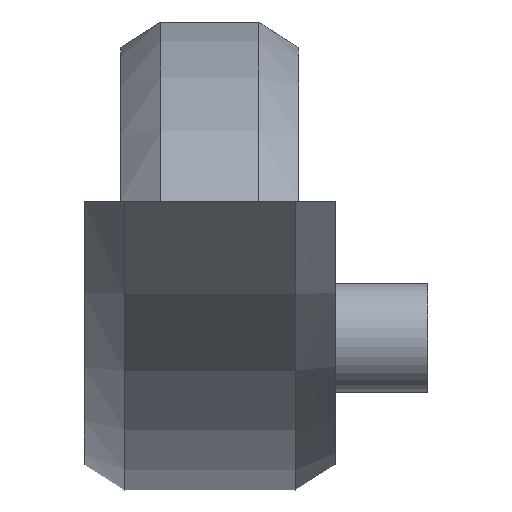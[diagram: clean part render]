
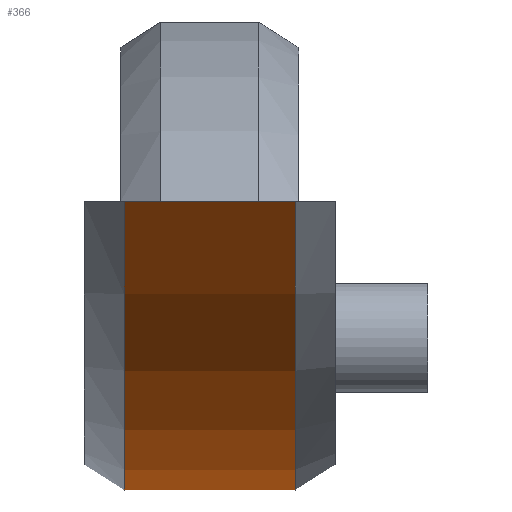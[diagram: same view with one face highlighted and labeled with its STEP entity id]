
A CAD part, front view. The second image highlights one B-rep face of the part: STEP entity #366.
In plain terms, the highlighted cylindrical face has radius 50 mm (diameter 100 mm), a partial arc.
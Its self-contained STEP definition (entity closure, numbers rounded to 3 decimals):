
#59=FACE_OUTER_BOUND('',#81,.T.);
#81=EDGE_LOOP('',(#290,#291,#292,#293));
#100=LINE('',#626,#125);
#106=LINE('',#646,#131);
#125=VECTOR('',#507,10.);
#131=VECTOR('',#513,10.);
#150=CIRCLE('',#455,50.);
#154=CIRCLE('',#462,50.);
#170=VERTEX_POINT('',#621);
#171=VERTEX_POINT('',#625);
#178=VERTEX_POINT('',#641);
#179=VERTEX_POINT('',#645);
#205=EDGE_CURVE('',#171,#170,#100,.T.);
#213=EDGE_CURVE('',#179,#178,#106,.T.);
#219=EDGE_CURVE('',#171,#178,#150,.T.);
#223=EDGE_CURVE('',#170,#179,#154,.T.);
#290=ORIENTED_EDGE('',*,*,#213,.T.);
#291=ORIENTED_EDGE('',*,*,#219,.F.);
#292=ORIENTED_EDGE('',*,*,#205,.T.);
#293=ORIENTED_EDGE('',*,*,#223,.T.);
#353=CYLINDRICAL_SURFACE('',#463,50.);
#366=ADVANCED_FACE('',(#59),#353,.T.);
#455=AXIS2_PLACEMENT_3D('',#658,#524,#525);
#462=AXIS2_PLACEMENT_3D('',#665,#538,#539);
#463=AXIS2_PLACEMENT_3D('',#666,#540,#541);
#507=DIRECTION('',(1.,0.,0.));
#513=DIRECTION('',(-1.,0.,0.));
#524=DIRECTION('center_axis',(-1.,0.,0.));
#525=DIRECTION('ref_axis',(0.,0.866,-0.5));
#538=DIRECTION('center_axis',(-1.,0.,0.));
#539=DIRECTION('ref_axis',(0.,0.866,-0.5));
#540=DIRECTION('center_axis',(-1.,0.,0.));
#541=DIRECTION('ref_axis',(0.,0.866,-0.5));
#621=CARTESIAN_POINT('',(4.7,36.661,0.));
#625=CARTESIAN_POINT('',(-4.7,36.661,0.));
#626=CARTESIAN_POINT('',(0.,36.661,0.));
#641=CARTESIAN_POINT('',(-4.7,-36.661,0.));
#645=CARTESIAN_POINT('',(4.7,-36.661,0.));
#646=CARTESIAN_POINT('',(0.,-36.661,0.));
#658=CARTESIAN_POINT('Origin',(-4.7,0.,34.));
#665=CARTESIAN_POINT('Origin',(4.7,0.,34.));
#666=CARTESIAN_POINT('Origin',(0.,0.,34.));
